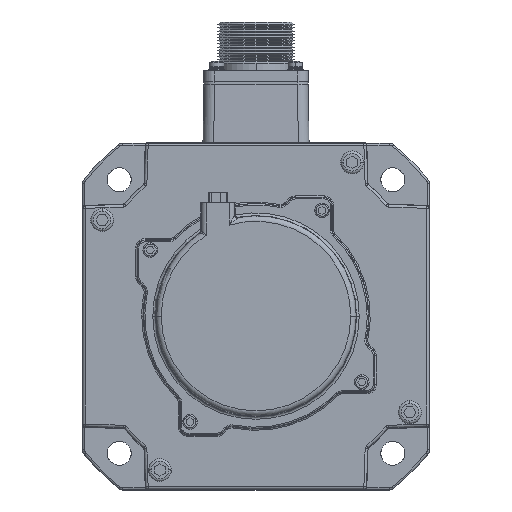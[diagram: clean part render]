
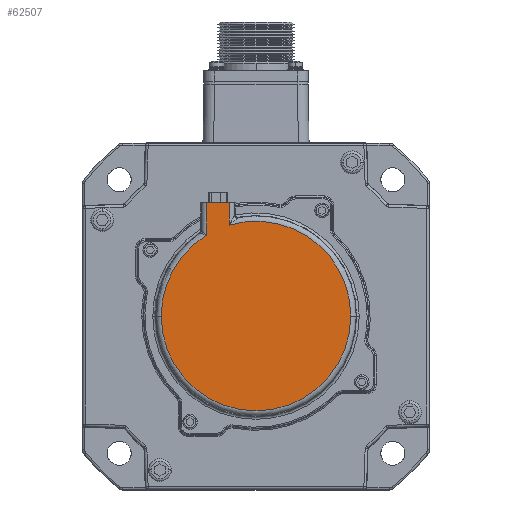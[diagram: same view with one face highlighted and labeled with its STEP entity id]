
A CAD part, top view. The second image highlights one B-rep face of the part: STEP entity #62507.
In plain terms, the highlighted planar face has unit normal (0, 0, 1).
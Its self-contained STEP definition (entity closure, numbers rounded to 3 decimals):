
#989 = CARTESIAN_POINT ( 'NONE',  ( -18.844, -13.773, -60.037 ) ) ;
#5644 = DIRECTION ( 'NONE',  ( 1., 0., 0. ) ) ;
#7047 = CARTESIAN_POINT ( 'NONE',  ( -8.872, -56.273, -60.037 ) ) ;
#13264 = LINE ( 'NONE', #989, #68008 ) ;
#13291 = PLANE ( 'NONE',  #125352 ) ;
#14455 = ORIENTED_EDGE ( 'NONE', *, *, #65448, .T. ) ;
#16768 = DIRECTION ( 'NONE',  ( 1., 0., 0. ) ) ;
#17049 = CARTESIAN_POINT ( 'NONE',  ( -18.844, -22.174, -60.037 ) ) ;
#19604 = EDGE_CURVE ( 'NONE', #120180, #100163, #94535, .T. ) ;
#19809 = EDGE_LOOP ( 'NONE', ( #85987, #14455, #113445, #108937, #23730, #93771 ) ) ;
#22388 = CARTESIAN_POINT ( 'NONE',  ( -27.4, -13.773, -60.037 ) ) ;
#23081 = DIRECTION ( 'NONE',  ( 0., 0., 1. ) ) ;
#23730 = ORIENTED_EDGE ( 'NONE', *, *, #78212, .T. ) ;
#24113 = VERTEX_POINT ( 'NONE', #111250 ) ;
#25828 = DIRECTION ( 'NONE',  ( 0., 0., 1. ) ) ;
#40239 = CIRCLE ( 'NONE', #71598, 35.528 ) ;
#41773 = EDGE_CURVE ( 'NONE', #48256, #24113, #48170, .T. ) ;
#42211 = CARTESIAN_POINT ( 'NONE',  ( -27.4, -25.959, -60.037 ) ) ;
#43540 = CARTESIAN_POINT ( 'NONE',  ( -27.4, -24.873, -60.037 ) ) ;
#45197 = VERTEX_POINT ( 'NONE', #17049 ) ;
#48170 = LINE ( 'NONE', #104194, #70962 ) ;
#48256 = VERTEX_POINT ( 'NONE', #22388 ) ;
#59186 = DIRECTION ( 'NONE',  ( 0., 1., 0. ) ) ;
#60467 = LINE ( 'NONE', #43540, #112239 ) ;
#61738 = CARTESIAN_POINT ( 'NONE',  ( -8.872, -56.273, -60.037 ) ) ;
#62214 = EDGE_CURVE ( 'NONE', #106598, #120180, #112966, .T. ) ;
#62507 = ADVANCED_FACE ( 'NONE', ( #79319 ), #13291, .T. ) ;
#63768 = DIRECTION ( 'NONE',  ( 0., 0., 1. ) ) ;
#65448 = EDGE_CURVE ( 'NONE', #48256, #106598, #60467, .T. ) ;
#65742 = EDGE_CURVE ( 'NONE', #45197, #24113, #13264, .T. ) ;
#68008 = VECTOR ( 'NONE', #59186, 1000. ) ;
#69100 = AXIS2_PLACEMENT_3D ( 'NONE', #7047, #75000, #16768 ) ;
#70962 = VECTOR ( 'NONE', #124883, 1000. ) ;
#71598 = AXIS2_PLACEMENT_3D ( 'NONE', #84093, #25828, #93858 ) ;
#72844 = DIRECTION ( 'NONE',  ( 0., -1., 0. ) ) ;
#75000 = DIRECTION ( 'NONE',  ( 0., 0., 1. ) ) ;
#76377 = CARTESIAN_POINT ( 'NONE',  ( 26.656, -56.273, -60.037 ) ) ;
#78212 = EDGE_CURVE ( 'NONE', #100163, #45197, #40239, .T. ) ;
#79319 = FACE_OUTER_BOUND ( 'NONE', #19809, .T. ) ;
#79367 = AXIS2_PLACEMENT_3D ( 'NONE', #122053, #63768, #5644 ) ;
#84093 = CARTESIAN_POINT ( 'NONE',  ( -8.872, -56.273, -60.037 ) ) ;
#85987 = ORIENTED_EDGE ( 'NONE', *, *, #41773, .F. ) ;
#91081 = DIRECTION ( 'NONE',  ( 1., 0., 0. ) ) ;
#93771 = ORIENTED_EDGE ( 'NONE', *, *, #65742, .T. ) ;
#93858 = DIRECTION ( 'NONE',  ( 1., 0., 0. ) ) ;
#94535 = CIRCLE ( 'NONE', #79367, 35.528 ) ;
#100163 = VERTEX_POINT ( 'NONE', #76377 ) ;
#104194 = CARTESIAN_POINT ( 'NONE',  ( -16.872, -13.773, -60.037 ) ) ;
#106598 = VERTEX_POINT ( 'NONE', #42211 ) ;
#108937 = ORIENTED_EDGE ( 'NONE', *, *, #19604, .T. ) ;
#111250 = CARTESIAN_POINT ( 'NONE',  ( -18.844, -13.773, -60.037 ) ) ;
#112239 = VECTOR ( 'NONE', #72844, 1000. ) ;
#112966 = CIRCLE ( 'NONE', #69100, 35.528 ) ;
#113445 = ORIENTED_EDGE ( 'NONE', *, *, #62214, .T. ) ;
#120180 = VERTEX_POINT ( 'NONE', #125483 ) ;
#122053 = CARTESIAN_POINT ( 'NONE',  ( -8.872, -56.273, -60.037 ) ) ;
#124883 = DIRECTION ( 'NONE',  ( 1., 0., 0. ) ) ;
#125352 = AXIS2_PLACEMENT_3D ( 'NONE', #61738, #23081, #91081 ) ;
#125483 = CARTESIAN_POINT ( 'NONE',  ( -44.4, -56.273, -60.037 ) ) ;
